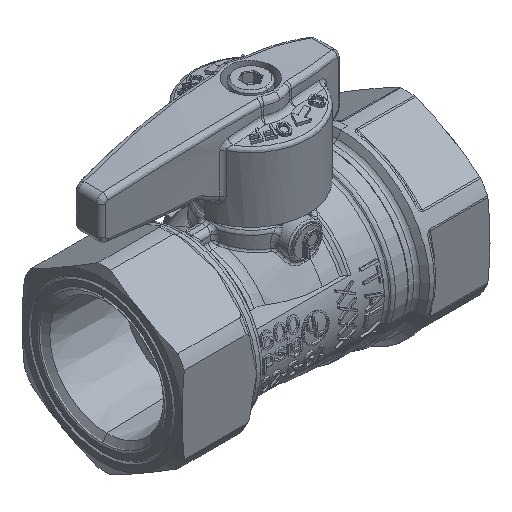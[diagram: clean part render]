
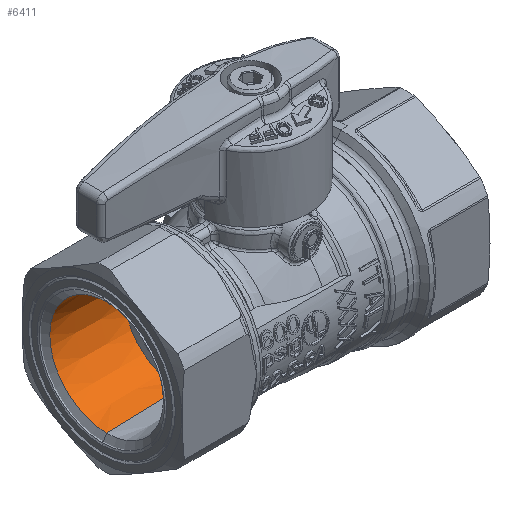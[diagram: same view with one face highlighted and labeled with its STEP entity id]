
A CAD part, isometric view. The second image highlights one B-rep face of the part: STEP entity #6411.
In plain terms, the highlighted conical face has half-angle 1.78 degrees and reference radius 0.457 mm.
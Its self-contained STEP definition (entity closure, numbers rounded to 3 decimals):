
#6263 = CONICAL_SURFACE('',#6264,0.499,1.047);
#6264 = AXIS2_PLACEMENT_3D('',#6265,#6266,#6267);
#6265 = CARTESIAN_POINT('',(30.593,-0.614,
    -15.577));
#6266 = DIRECTION('',(-1.,0.,0.));
#6267 = DIRECTION('',(0.,0.,1.));
#6306 = VERTEX_POINT('',#6307);
#6307 = CARTESIAN_POINT('',(30.612,-0.614,
    -15.111));
#6330 = VERTEX_POINT('',#6331);
#6331 = CARTESIAN_POINT('',(30.612,-0.614,
    -16.043));
#6367 = CONICAL_SURFACE('',#6368,0.457,0.031);
#6368 = AXIS2_PLACEMENT_3D('',#6369,#6370,#6371);
#6369 = CARTESIAN_POINT('',(30.909,-0.614,
    -15.577));
#6370 = DIRECTION('',(-1.,0.,0.));
#6371 = DIRECTION('',(0.,0.,1.));
#6384 = EDGE_CURVE('',#6306,#6330,#6385,.T.);
#6385 = SURFACE_CURVE('',#6386,(#6391,#6398),.PCURVE_S1.);
#6386 = CIRCLE('',#6387,0.466);
#6387 = AXIS2_PLACEMENT_3D('',#6388,#6389,#6390);
#6388 = CARTESIAN_POINT('',(30.612,-0.614,
    -15.577));
#6389 = DIRECTION('',(-1.,0.,0.));
#6390 = DIRECTION('',(0.,0.,1.));
#6391 = PCURVE('',#6263,#6392);
#6392 = DEFINITIONAL_REPRESENTATION('',(#6393),#6397);
#6393 = LINE('',#6394,#6395);
#6394 = CARTESIAN_POINT('',(0.,-0.019));
#6395 = VECTOR('',#6396,1.);
#6396 = DIRECTION('',(1.,0.));
#6397 = ( GEOMETRIC_REPRESENTATION_CONTEXT(2) 
PARAMETRIC_REPRESENTATION_CONTEXT() REPRESENTATION_CONTEXT('2D SPACE',''
  ) );
#6398 = PCURVE('',#6399,#6404);
#6399 = CONICAL_SURFACE('',#6400,0.457,0.031);
#6400 = AXIS2_PLACEMENT_3D('',#6401,#6402,#6403);
#6401 = CARTESIAN_POINT('',(30.909,-0.614,
    -15.577));
#6402 = DIRECTION('',(-1.,0.,0.));
#6403 = DIRECTION('',(0.,0.,1.));
#6404 = DEFINITIONAL_REPRESENTATION('',(#6405),#6409);
#6405 = LINE('',#6406,#6407);
#6406 = CARTESIAN_POINT('',(0.,0.296));
#6407 = VECTOR('',#6408,1.);
#6408 = DIRECTION('',(1.,0.));
#6409 = ( GEOMETRIC_REPRESENTATION_CONTEXT(2) 
PARAMETRIC_REPRESENTATION_CONTEXT() REPRESENTATION_CONTEXT('2D SPACE',''
  ) );
#6411 = ADVANCED_FACE('',(#6412),#6399,.F.);
#6412 = FACE_BOUND('',#6413,.T.);
#6413 = EDGE_LOOP('',(#6414,#6415,#6438,#6467));
#6414 = ORIENTED_EDGE('',*,*,#6384,.T.);
#6415 = ORIENTED_EDGE('',*,*,#6416,.F.);
#6416 = EDGE_CURVE('',#6417,#6330,#6419,.T.);
#6417 = VERTEX_POINT('',#6418);
#6418 = CARTESIAN_POINT('',(31.205,-0.614,-16.024));
#6419 = SURFACE_CURVE('',#6420,(#6424,#6431),.PCURVE_S1.);
#6420 = LINE('',#6421,#6422);
#6421 = CARTESIAN_POINT('',(31.205,-0.614,-16.024));
#6422 = VECTOR('',#6423,1.);
#6423 = DIRECTION('',(-1.,0.,-0.031));
#6424 = PCURVE('',#6399,#6425);
#6425 = DEFINITIONAL_REPRESENTATION('',(#6426),#6430);
#6426 = LINE('',#6427,#6428);
#6427 = CARTESIAN_POINT('',(3.142,-0.296));
#6428 = VECTOR('',#6429,1.);
#6429 = DIRECTION('',(0.,1.));
#6430 = ( GEOMETRIC_REPRESENTATION_CONTEXT(2) 
PARAMETRIC_REPRESENTATION_CONTEXT() REPRESENTATION_CONTEXT('2D SPACE',''
  ) );
#6431 = PCURVE('',#6367,#6432);
#6432 = DEFINITIONAL_REPRESENTATION('',(#6433),#6437);
#6433 = LINE('',#6434,#6435);
#6434 = CARTESIAN_POINT('',(3.142,-0.296));
#6435 = VECTOR('',#6436,1.);
#6436 = DIRECTION('',(0.,1.));
#6437 = ( GEOMETRIC_REPRESENTATION_CONTEXT(2) 
PARAMETRIC_REPRESENTATION_CONTEXT() REPRESENTATION_CONTEXT('2D SPACE',''
  ) );
#6438 = ORIENTED_EDGE('',*,*,#6439,.F.);
#6439 = EDGE_CURVE('',#6440,#6417,#6442,.T.);
#6440 = VERTEX_POINT('',#6441);
#6441 = CARTESIAN_POINT('',(31.205,-0.614,-15.129));
#6442 = SURFACE_CURVE('',#6443,(#6448,#6455),.PCURVE_S1.);
#6443 = CIRCLE('',#6444,0.448);
#6444 = AXIS2_PLACEMENT_3D('',#6445,#6446,#6447);
#6445 = CARTESIAN_POINT('',(31.205,-0.614,-15.577));
#6446 = DIRECTION('',(-1.,0.,0.));
#6447 = DIRECTION('',(0.,0.,1.));
#6448 = PCURVE('',#6399,#6449);
#6449 = DEFINITIONAL_REPRESENTATION('',(#6450),#6454);
#6450 = LINE('',#6451,#6452);
#6451 = CARTESIAN_POINT('',(0.,-0.296));
#6452 = VECTOR('',#6453,1.);
#6453 = DIRECTION('',(1.,0.));
#6454 = ( GEOMETRIC_REPRESENTATION_CONTEXT(2) 
PARAMETRIC_REPRESENTATION_CONTEXT() REPRESENTATION_CONTEXT('2D SPACE',''
  ) );
#6455 = PCURVE('',#6456,#6461);
#6456 = CONICAL_SURFACE('',#6457,0.426,1.309);
#6457 = AXIS2_PLACEMENT_3D('',#6458,#6459,#6460);
#6458 = CARTESIAN_POINT('',(31.211,-0.614,
    -15.577));
#6459 = DIRECTION('',(-1.,0.,0.));
#6460 = DIRECTION('',(0.,0.,1.));
#6461 = DEFINITIONAL_REPRESENTATION('',(#6462),#6466);
#6462 = LINE('',#6463,#6464);
#6463 = CARTESIAN_POINT('',(0.,0.006));
#6464 = VECTOR('',#6465,1.);
#6465 = DIRECTION('',(1.,0.));
#6466 = ( GEOMETRIC_REPRESENTATION_CONTEXT(2) 
PARAMETRIC_REPRESENTATION_CONTEXT() REPRESENTATION_CONTEXT('2D SPACE',''
  ) );
#6467 = ORIENTED_EDGE('',*,*,#6468,.T.);
#6468 = EDGE_CURVE('',#6440,#6306,#6469,.T.);
#6469 = SURFACE_CURVE('',#6470,(#6474,#6481),.PCURVE_S1.);
#6470 = LINE('',#6471,#6472);
#6471 = CARTESIAN_POINT('',(31.205,-0.614,-15.129));
#6472 = VECTOR('',#6473,1.);
#6473 = DIRECTION('',(-1.,0.,0.031));
#6474 = PCURVE('',#6399,#6475);
#6475 = DEFINITIONAL_REPRESENTATION('',(#6476),#6480);
#6476 = LINE('',#6477,#6478);
#6477 = CARTESIAN_POINT('',(0.,-0.296));
#6478 = VECTOR('',#6479,1.);
#6479 = DIRECTION('',(0.,1.));
#6480 = ( GEOMETRIC_REPRESENTATION_CONTEXT(2) 
PARAMETRIC_REPRESENTATION_CONTEXT() REPRESENTATION_CONTEXT('2D SPACE',''
  ) );
#6481 = PCURVE('',#6367,#6482);
#6482 = DEFINITIONAL_REPRESENTATION('',(#6483),#6487);
#6483 = LINE('',#6484,#6485);
#6484 = CARTESIAN_POINT('',(6.283,-0.296));
#6485 = VECTOR('',#6486,1.);
#6486 = DIRECTION('',(0.,1.));
#6487 = ( GEOMETRIC_REPRESENTATION_CONTEXT(2) 
PARAMETRIC_REPRESENTATION_CONTEXT() REPRESENTATION_CONTEXT('2D SPACE',''
  ) );
